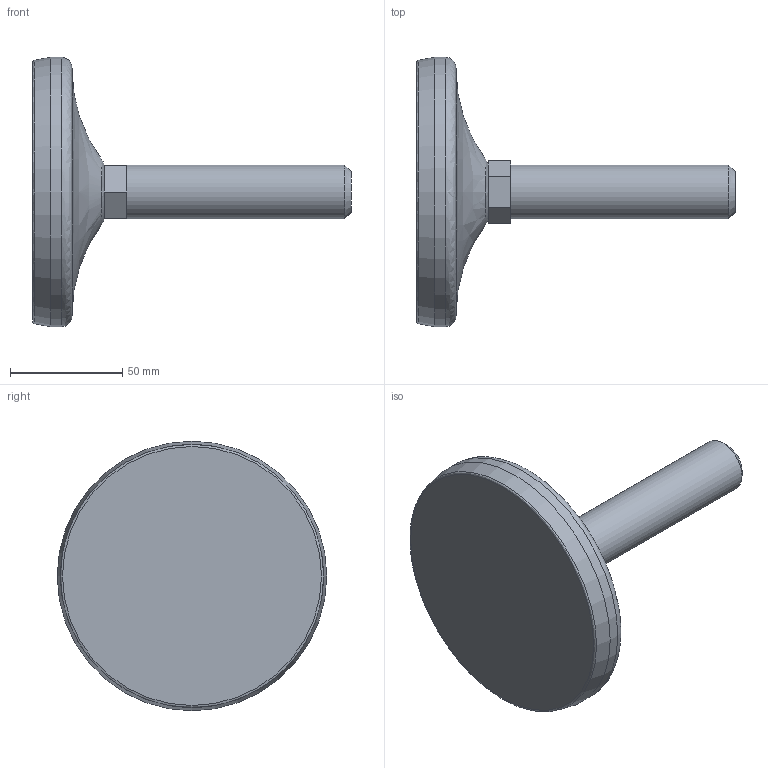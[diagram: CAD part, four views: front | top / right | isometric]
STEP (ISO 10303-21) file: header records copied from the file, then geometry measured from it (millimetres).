
FILE_DESCRIPTION(('STEP AP203'),'2;1');
FILE_NAME('26220.stp','2015-09-03T07:29:14',(''),(''),'2008.1.107','THINKDESIGN','');
FILE_SCHEMA(('CONFIG_CONTROL_DESIGN'));
Length unit declared in the file: millimetre
Bounding box: 142 x 120 x 120 mm (x, y, z)
Volume: 279565.7 mm3; surface area: 61037 mm2
Topology: 4 solids, 4 shells, 22 faces, 48 edges, 34 vertices
Faces by surface type: plane 14, bspline 6, cylinder 2
Full cylindrical faces by diameter (mm): 24 x1, 120 x1
Entity records: 950 total; most frequent: CARTESIAN_POINT 364, DIRECTION 106, ORIENTED_EDGE 96, EDGE_CURVE 48, AXIS2_PLACEMENT_3D 42, VERTEX_POINT 34, CIRCLE 26, EDGE_LOOP 22
